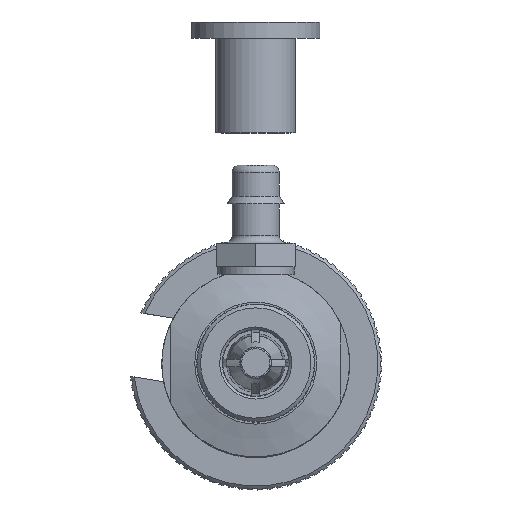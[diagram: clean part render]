
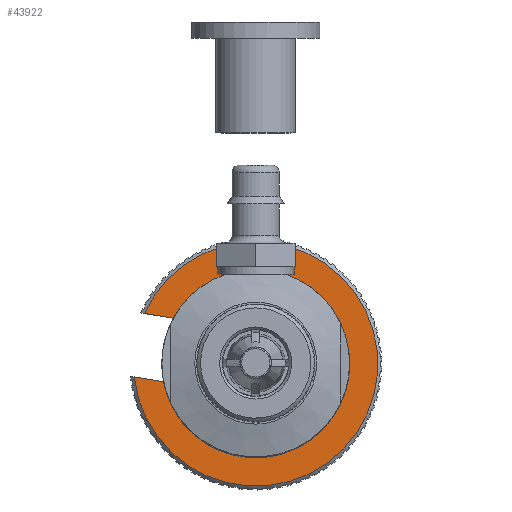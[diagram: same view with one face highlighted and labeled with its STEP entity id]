
A CAD part, top view. The second image highlights one B-rep face of the part: STEP entity #43922.
In plain terms, the highlighted planar face has unit normal (0, 0, 1) as drawn and (0, 0, -1) by its records, which use the part's own axes.
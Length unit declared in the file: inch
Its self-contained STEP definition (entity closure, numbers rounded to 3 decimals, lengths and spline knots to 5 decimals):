
#35878=CARTESIAN_POINT('',(-0.1275,0.46794,0.3125));
#35879=VERTEX_POINT('',#35878);
#35895=CARTESIAN_POINT('',(0.1275,0.46794,0.3125));
#35896=VERTEX_POINT('',#35895);
#35897=CARTESIAN_POINT('',(0.0,0.0,0.3125));
#35898=DIRECTION('',(0.0,0.0,-1.0));
#35899=DIRECTION('',(0.0,1.0,0.0));
#35900=AXIS2_PLACEMENT_3D('',#35897,#35898,#35899);
#35901=CIRCLE('',#35900,0.485);
#35902=EDGE_CURVE('',#35896,#35879,#35901,.T.);
#41379=CARTESIAN_POINT('',(-0.1275,0.24366,0.3125));
#41380=VERTEX_POINT('',#41379);
#41387=CARTESIAN_POINT('',(-0.1275,0.46794,0.3125));
#41388=DIRECTION('',(0.0,-1.0,0.0));
#41389=VECTOR('',#41388,0.22428);
#41390=LINE('',#41387,#41389);
#41391=EDGE_CURVE('',#35879,#41380,#41390,.T.);
#41406=CARTESIAN_POINT('',(0.1275,0.24366,0.3125));
#41407=VERTEX_POINT('',#41406);
#41408=CARTESIAN_POINT('',(0.1275,0.24366,0.3125));
#41409=DIRECTION('',(0.0,1.0,0.0));
#41410=VECTOR('',#41409,0.22428);
#41411=LINE('',#41408,#41410);
#41412=EDGE_CURVE('',#41407,#35896,#41411,.T.);
#43905=CARTESIAN_POINT('',(0.0,0.0,0.3125));
#43906=DIRECTION('',(0.0,0.0,1.0));
#43907=DIRECTION('',(1.0,0.0,0.0));
#43908=AXIS2_PLACEMENT_3D('',#43905,#43906,#43907);
#43909=PLANE('',#43908);
#43910=ORIENTED_EDGE('',*,*,#35902,.T.);
#43911=ORIENTED_EDGE('',*,*,#41391,.T.);
#43912=CARTESIAN_POINT('',(0.0,0.0,0.3125));
#43913=DIRECTION('',(0.0,0.0,-1.0));
#43914=DIRECTION('',(1.0,0.0,0.0));
#43915=AXIS2_PLACEMENT_3D('',#43912,#43913,#43914);
#43916=CIRCLE('',#43915,0.275);
#43917=EDGE_CURVE('',#41407,#41380,#43916,.T.);
#43918=ORIENTED_EDGE('',*,*,#43917,.F.);
#43919=ORIENTED_EDGE('',*,*,#41412,.T.);
#43920=EDGE_LOOP('',(#43910,#43911,#43918,#43919));
#43921=FACE_OUTER_BOUND('',#43920,.T.);
#43922=ADVANCED_FACE('',(#43921),#43909,.F.);
